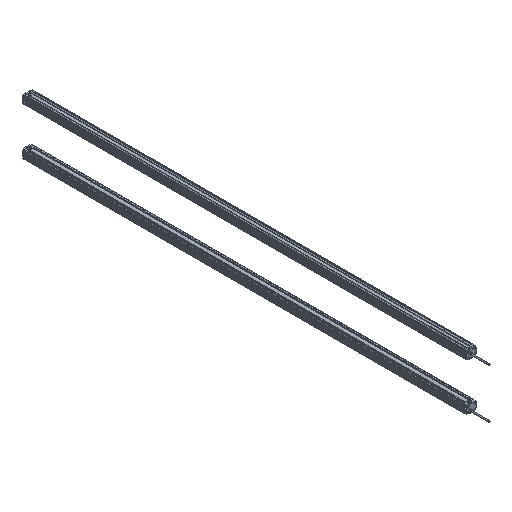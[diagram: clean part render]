
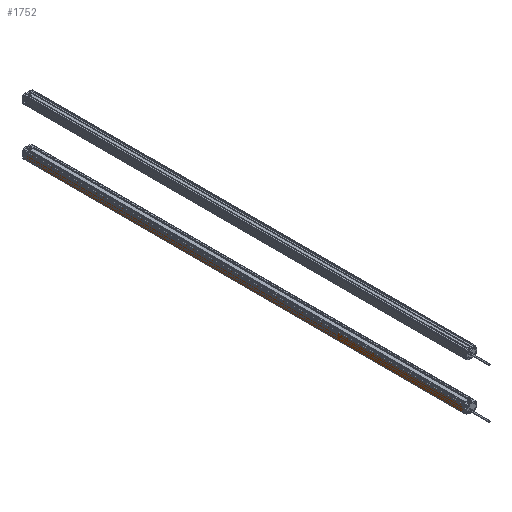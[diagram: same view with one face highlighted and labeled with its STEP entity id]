
A CAD part, isometric view. The second image highlights one B-rep face of the part: STEP entity #1752.
In plain terms, the highlighted planar face has unit normal (-1, 0, 0).
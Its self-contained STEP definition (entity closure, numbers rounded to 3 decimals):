
#75 = EDGE_CURVE ( 'NONE', #646, #6820, #1265, .T. ) ;
#212 = CARTESIAN_POINT ( 'NONE',  ( -12.5, -1120., 8.293 ) ) ;
#225 = CARTESIAN_POINT ( 'NONE',  ( -12.5, -1120., -9.2 ) ) ;
#298 = VECTOR ( 'NONE', #4806, 1000. ) ;
#349 = LINE ( 'NONE', #1538, #5103 ) ;
#646 = VERTEX_POINT ( 'NONE', #4400 ) ;
#1265 = LINE ( 'NONE', #4114, #3212 ) ;
#1401 = EDGE_LOOP ( 'NONE', ( #4149, #6910, #5084, #9776 ) ) ;
#1483 = CARTESIAN_POINT ( 'NONE',  ( -12.5, 0., 8.293 ) ) ;
#1538 = CARTESIAN_POINT ( 'NONE',  ( -12.5, -1120., -9.2 ) ) ;
#1752 = ADVANCED_FACE ( 'NONE', ( #8698 ), #4799, .T. ) ;
#1807 = EDGE_CURVE ( 'NONE', #10722, #646, #349, .T. ) ;
#2282 = DIRECTION ( 'NONE',  ( 0., 0., 1. ) ) ;
#2387 = CARTESIAN_POINT ( 'NONE',  ( -12.5, -1120., 8.293 ) ) ;
#2430 = AXIS2_PLACEMENT_3D ( 'NONE', #6554, #10664, #2282 ) ;
#3212 = VECTOR ( 'NONE', #6088, 1000. ) ;
#3308 = DIRECTION ( 'NONE',  ( 0., 1., 0. ) ) ;
#4114 = CARTESIAN_POINT ( 'NONE',  ( -12.5, 0., -9.2 ) ) ;
#4149 = ORIENTED_EDGE ( 'NONE', *, *, #75, .F. ) ;
#4400 = CARTESIAN_POINT ( 'NONE',  ( -12.5, 0., -9.2 ) ) ;
#4478 = EDGE_CURVE ( 'NONE', #6559, #6820, #4653, .T. ) ;
#4653 = LINE ( 'NONE', #2387, #298 ) ;
#4799 = PLANE ( 'NONE',  #2430 ) ;
#4806 = DIRECTION ( 'NONE',  ( 0., 1., 0. ) ) ;
#5084 = ORIENTED_EDGE ( 'NONE', *, *, #8195, .T. ) ;
#5103 = VECTOR ( 'NONE', #3308, 1000. ) ;
#6088 = DIRECTION ( 'NONE',  ( 0., 0., 1. ) ) ;
#6297 = VECTOR ( 'NONE', #7839, 1000. ) ;
#6554 = CARTESIAN_POINT ( 'NONE',  ( -12.5, -1120., -9.2 ) ) ;
#6559 = VERTEX_POINT ( 'NONE', #212 ) ;
#6820 = VERTEX_POINT ( 'NONE', #1483 ) ;
#6910 = ORIENTED_EDGE ( 'NONE', *, *, #1807, .F. ) ;
#7839 = DIRECTION ( 'NONE',  ( 0., 0., 1. ) ) ;
#8195 = EDGE_CURVE ( 'NONE', #10722, #6559, #8545, .T. ) ;
#8545 = LINE ( 'NONE', #8734, #6297 ) ;
#8698 = FACE_OUTER_BOUND ( 'NONE', #1401, .T. ) ;
#8734 = CARTESIAN_POINT ( 'NONE',  ( -12.5, -1120., -9.2 ) ) ;
#9776 = ORIENTED_EDGE ( 'NONE', *, *, #4478, .T. ) ;
#10664 = DIRECTION ( 'NONE',  ( -1., 0., 0. ) ) ;
#10722 = VERTEX_POINT ( 'NONE', #225 ) ;
